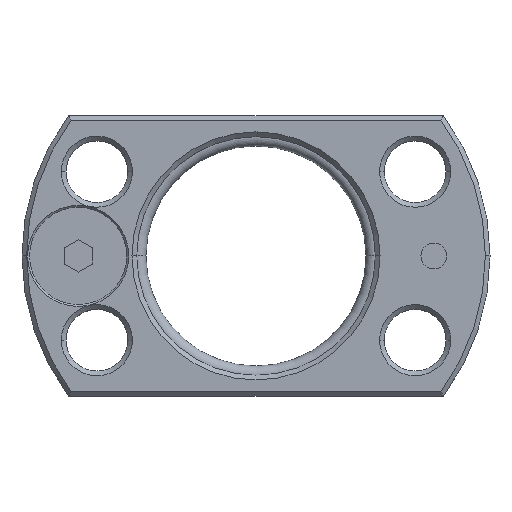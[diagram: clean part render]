
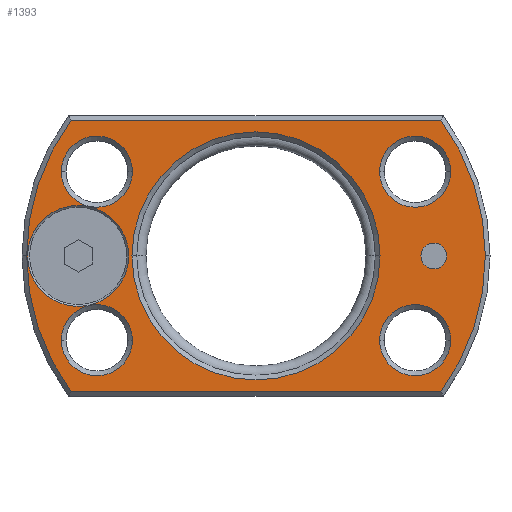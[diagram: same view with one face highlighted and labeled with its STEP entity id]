
A CAD part, top view. The second image highlights one B-rep face of the part: STEP entity #1393.
In plain terms, the highlighted planar face has unit normal (0, 0, 1).
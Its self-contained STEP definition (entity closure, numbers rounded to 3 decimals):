
#297=CARTESIAN_POINT('Vertex',(20.375,0.,9.)) ;
#311=CARTESIAN_POINT('Vertex',(17.625,0.,9.)) ;
#314=CARTESIAN_POINT('Axis2P3D Location',(19.,0.,9.)) ;
#331=CARTESIAN_POINT('Axis2P3D Location',(19.,0.,9.)) ;
#357=CARTESIAN_POINT('Vertex',(-24.4,0.,9.)) ;
#373=CARTESIAN_POINT('Vertex',(-13.6,0.,9.)) ;
#376=CARTESIAN_POINT('Axis2P3D Location',(-19.,0.,9.)) ;
#393=CARTESIAN_POINT('Axis2P3D Location',(-19.,0.,9.)) ;
#878=CARTESIAN_POINT('Vertex',(-19.748,-14.5,9.)) ;
#881=CARTESIAN_POINT('Axis2P3D Location',(0.,0.,9.)) ;
#885=CARTESIAN_POINT('Vertex',(-24.5,0.,9.)) ;
#917=CARTESIAN_POINT('Vertex',(-19.748,14.5,9.)) ;
#927=CARTESIAN_POINT('Axis2P3D Location',(0.,0.,9.)) ;
#951=CARTESIAN_POINT('Vertex',(19.748,-14.5,9.)) ;
#954=CARTESIAN_POINT('Line Origine',(0.,-14.5,9.)) ;
#983=CARTESIAN_POINT('Vertex',(19.748,14.5,9.)) ;
#986=CARTESIAN_POINT('Axis2P3D Location',(0.,0.,9.)) ;
#990=CARTESIAN_POINT('Vertex',(24.5,0.,9.)) ;
#1022=CARTESIAN_POINT('Axis2P3D Location',(0.,0.,9.)) ;
#1039=CARTESIAN_POINT('Line Origine',(0.,14.5,9.)) ;
#1065=CARTESIAN_POINT('Vertex',(-20.8,-9.,9.)) ;
#1081=CARTESIAN_POINT('Vertex',(-13.2,-9.,9.)) ;
#1084=CARTESIAN_POINT('Axis2P3D Location',(-17.,-9.,9.)) ;
#1106=CARTESIAN_POINT('Axis2P3D Location',(-17.,-9.,9.)) ;
#1127=CARTESIAN_POINT('Vertex',(-13.2,9.,9.)) ;
#1143=CARTESIAN_POINT('Vertex',(-20.8,9.,9.)) ;
#1146=CARTESIAN_POINT('Axis2P3D Location',(-17.,9.,9.)) ;
#1168=CARTESIAN_POINT('Axis2P3D Location',(-17.,9.,9.)) ;
#1237=CARTESIAN_POINT('Vertex',(-13.25,0.,9.)) ;
#1244=CARTESIAN_POINT('Vertex',(13.25,0.,9.)) ;
#1247=CARTESIAN_POINT('Axis2P3D Location',(0.,0.,9.)) ;
#1264=CARTESIAN_POINT('Axis2P3D Location',(0.,0.,9.)) ;
#1285=CARTESIAN_POINT('Vertex',(13.2,9.,9.)) ;
#1301=CARTESIAN_POINT('Vertex',(20.8,9.,9.)) ;
#1304=CARTESIAN_POINT('Axis2P3D Location',(17.,9.,9.)) ;
#1326=CARTESIAN_POINT('Axis2P3D Location',(17.,9.,9.)) ;
#1338=CARTESIAN_POINT('Axis2P3D Location',(0.,0.,9.)) ;
#1351=CARTESIAN_POINT('Axis2P3D Location',(17.,-9.,9.)) ;
#1355=CARTESIAN_POINT('Vertex',(13.2,-9.,9.)) ;
#1357=CARTESIAN_POINT('Vertex',(20.8,-9.,9.)) ;
#1360=CARTESIAN_POINT('Axis2P3D Location',(17.,-9.,9.)) ;
#315=DIRECTION('Axis2P3D Direction',(0.,0.,1.)) ;
#332=DIRECTION('Axis2P3D Direction',(0.,0.,1.)) ;
#377=DIRECTION('Axis2P3D Direction',(0.,0.,1.)) ;
#394=DIRECTION('Axis2P3D Direction',(0.,0.,1.)) ;
#882=DIRECTION('Axis2P3D Direction',(0.,0.,1.)) ;
#928=DIRECTION('Axis2P3D Direction',(0.,0.,1.)) ;
#955=DIRECTION('Vector Direction',(1.,0.,0.)) ;
#987=DIRECTION('Axis2P3D Direction',(0.,0.,1.)) ;
#1023=DIRECTION('Axis2P3D Direction',(0.,0.,1.)) ;
#1040=DIRECTION('Vector Direction',(-1.,0.,0.)) ;
#1085=DIRECTION('Axis2P3D Direction',(0.,0.,1.)) ;
#1107=DIRECTION('Axis2P3D Direction',(0.,0.,1.)) ;
#1147=DIRECTION('Axis2P3D Direction',(0.,0.,1.)) ;
#1169=DIRECTION('Axis2P3D Direction',(0.,0.,1.)) ;
#1248=DIRECTION('Axis2P3D Direction',(0.,0.,1.)) ;
#1265=DIRECTION('Axis2P3D Direction',(0.,0.,1.)) ;
#1305=DIRECTION('Axis2P3D Direction',(0.,0.,1.)) ;
#1327=DIRECTION('Axis2P3D Direction',(0.,0.,1.)) ;
#1339=DIRECTION('Axis2P3D Direction',(0.,0.,1.)) ;
#1340=DIRECTION('Axis2P3D XDirection',(1.,0.,0.)) ;
#1352=DIRECTION('Axis2P3D Direction',(0.,0.,1.)) ;
#1361=DIRECTION('Axis2P3D Direction',(0.,0.,1.)) ;
#316=AXIS2_PLACEMENT_3D('Circle Axis2P3D',#314,#315,$) ;
#333=AXIS2_PLACEMENT_3D('Circle Axis2P3D',#331,#332,$) ;
#378=AXIS2_PLACEMENT_3D('Circle Axis2P3D',#376,#377,$) ;
#395=AXIS2_PLACEMENT_3D('Circle Axis2P3D',#393,#394,$) ;
#883=AXIS2_PLACEMENT_3D('Circle Axis2P3D',#881,#882,$) ;
#929=AXIS2_PLACEMENT_3D('Circle Axis2P3D',#927,#928,$) ;
#988=AXIS2_PLACEMENT_3D('Circle Axis2P3D',#986,#987,$) ;
#1024=AXIS2_PLACEMENT_3D('Circle Axis2P3D',#1022,#1023,$) ;
#1086=AXIS2_PLACEMENT_3D('Circle Axis2P3D',#1084,#1085,$) ;
#1108=AXIS2_PLACEMENT_3D('Circle Axis2P3D',#1106,#1107,$) ;
#1148=AXIS2_PLACEMENT_3D('Circle Axis2P3D',#1146,#1147,$) ;
#1170=AXIS2_PLACEMENT_3D('Circle Axis2P3D',#1168,#1169,$) ;
#1249=AXIS2_PLACEMENT_3D('Circle Axis2P3D',#1247,#1248,$) ;
#1266=AXIS2_PLACEMENT_3D('Circle Axis2P3D',#1264,#1265,$) ;
#1306=AXIS2_PLACEMENT_3D('Circle Axis2P3D',#1304,#1305,$) ;
#1328=AXIS2_PLACEMENT_3D('Circle Axis2P3D',#1326,#1327,$) ;
#1341=AXIS2_PLACEMENT_3D('Plane Axis2P3D',#1338,#1339,#1340) ;
#1353=AXIS2_PLACEMENT_3D('Circle Axis2P3D',#1351,#1352,$) ;
#1362=AXIS2_PLACEMENT_3D('Circle Axis2P3D',#1360,#1361,$) ;
#1344=ORIENTED_EDGE('',*,*,#887,.T.) ;
#1345=ORIENTED_EDGE('',*,*,#958,.T.) ;
#1346=ORIENTED_EDGE('',*,*,#1026,.T.) ;
#1347=ORIENTED_EDGE('',*,*,#992,.T.) ;
#1348=ORIENTED_EDGE('',*,*,#1043,.T.) ;
#1349=ORIENTED_EDGE('',*,*,#931,.T.) ;
#1366=ORIENTED_EDGE('',*,*,#1359,.T.) ;
#1367=ORIENTED_EDGE('',*,*,#1364,.T.) ;
#1370=ORIENTED_EDGE('',*,*,#1330,.T.) ;
#1371=ORIENTED_EDGE('',*,*,#1308,.T.) ;
#1374=ORIENTED_EDGE('',*,*,#1268,.T.) ;
#1375=ORIENTED_EDGE('',*,*,#1251,.T.) ;
#1378=ORIENTED_EDGE('',*,*,#1172,.T.) ;
#1379=ORIENTED_EDGE('',*,*,#1150,.T.) ;
#1382=ORIENTED_EDGE('',*,*,#1110,.T.) ;
#1383=ORIENTED_EDGE('',*,*,#1088,.T.) ;
#1386=ORIENTED_EDGE('',*,*,#318,.T.) ;
#1387=ORIENTED_EDGE('',*,*,#335,.T.) ;
#1390=ORIENTED_EDGE('',*,*,#380,.T.) ;
#1391=ORIENTED_EDGE('',*,*,#397,.T.) ;
#1368=FACE_BOUND('',#1365,.T.) ;
#1372=FACE_BOUND('',#1369,.T.) ;
#1376=FACE_BOUND('',#1373,.T.) ;
#1380=FACE_BOUND('',#1377,.T.) ;
#1384=FACE_BOUND('',#1381,.T.) ;
#1388=FACE_BOUND('',#1385,.T.) ;
#1392=FACE_BOUND('',#1389,.T.) ;
#956=VECTOR('Line Direction',#955,1.) ;
#1041=VECTOR('Line Direction',#1040,1.) ;
#1393=ADVANCED_FACE('',(#1350,#1368,#1372,#1376,#1380,#1384,#1388,#1392),#1342,.T.) ;
#317=CIRCLE('generated circle',#316,1.375) ;
#334=CIRCLE('generated circle',#333,1.375) ;
#379=CIRCLE('generated circle',#378,5.4) ;
#396=CIRCLE('generated circle',#395,5.4) ;
#884=CIRCLE('generated circle',#883,24.5) ;
#930=CIRCLE('generated circle',#929,24.5) ;
#989=CIRCLE('generated circle',#988,24.5) ;
#1025=CIRCLE('generated circle',#1024,24.5) ;
#1087=CIRCLE('generated circle',#1086,3.8) ;
#1109=CIRCLE('generated circle',#1108,3.8) ;
#1149=CIRCLE('generated circle',#1148,3.8) ;
#1171=CIRCLE('generated circle',#1170,3.8) ;
#1250=CIRCLE('generated circle',#1249,13.25) ;
#1267=CIRCLE('generated circle',#1266,13.25) ;
#1307=CIRCLE('generated circle',#1306,3.8) ;
#1329=CIRCLE('generated circle',#1328,3.8) ;
#1354=CIRCLE('generated circle',#1353,3.8) ;
#1363=CIRCLE('generated circle',#1362,3.8) ;
#318=EDGE_CURVE('',#298,#312,#317,.F.) ;
#335=EDGE_CURVE('',#312,#298,#334,.F.) ;
#380=EDGE_CURVE('',#358,#374,#379,.F.) ;
#397=EDGE_CURVE('',#374,#358,#396,.F.) ;
#887=EDGE_CURVE('',#886,#879,#884,.T.) ;
#931=EDGE_CURVE('',#918,#886,#930,.T.) ;
#958=EDGE_CURVE('',#879,#952,#957,.T.) ;
#992=EDGE_CURVE('',#991,#984,#989,.T.) ;
#1026=EDGE_CURVE('',#952,#991,#1025,.T.) ;
#1043=EDGE_CURVE('',#984,#918,#1042,.T.) ;
#1088=EDGE_CURVE('',#1066,#1082,#1087,.F.) ;
#1110=EDGE_CURVE('',#1082,#1066,#1109,.F.) ;
#1150=EDGE_CURVE('',#1128,#1144,#1149,.F.) ;
#1172=EDGE_CURVE('',#1144,#1128,#1171,.F.) ;
#1251=EDGE_CURVE('',#1238,#1245,#1250,.F.) ;
#1268=EDGE_CURVE('',#1245,#1238,#1267,.F.) ;
#1308=EDGE_CURVE('',#1286,#1302,#1307,.F.) ;
#1330=EDGE_CURVE('',#1302,#1286,#1329,.F.) ;
#1359=EDGE_CURVE('',#1356,#1358,#1354,.F.) ;
#1364=EDGE_CURVE('',#1358,#1356,#1363,.F.) ;
#1343=EDGE_LOOP('',(#1344,#1345,#1346,#1347,#1348,#1349)) ;
#1365=EDGE_LOOP('',(#1366,#1367)) ;
#1369=EDGE_LOOP('',(#1370,#1371)) ;
#1373=EDGE_LOOP('',(#1374,#1375)) ;
#1377=EDGE_LOOP('',(#1378,#1379)) ;
#1381=EDGE_LOOP('',(#1382,#1383)) ;
#1385=EDGE_LOOP('',(#1386,#1387)) ;
#1389=EDGE_LOOP('',(#1390,#1391)) ;
#1350=FACE_OUTER_BOUND('',#1343,.T.) ;
#957=LINE('Line',#954,#956) ;
#1042=LINE('Line',#1039,#1041) ;
#1342=PLANE('Plane',#1341) ;
#298=VERTEX_POINT('',#297) ;
#312=VERTEX_POINT('',#311) ;
#358=VERTEX_POINT('',#357) ;
#374=VERTEX_POINT('',#373) ;
#879=VERTEX_POINT('',#878) ;
#886=VERTEX_POINT('',#885) ;
#918=VERTEX_POINT('',#917) ;
#952=VERTEX_POINT('',#951) ;
#984=VERTEX_POINT('',#983) ;
#991=VERTEX_POINT('',#990) ;
#1066=VERTEX_POINT('',#1065) ;
#1082=VERTEX_POINT('',#1081) ;
#1128=VERTEX_POINT('',#1127) ;
#1144=VERTEX_POINT('',#1143) ;
#1238=VERTEX_POINT('',#1237) ;
#1245=VERTEX_POINT('',#1244) ;
#1286=VERTEX_POINT('',#1285) ;
#1302=VERTEX_POINT('',#1301) ;
#1356=VERTEX_POINT('',#1355) ;
#1358=VERTEX_POINT('',#1357) ;
